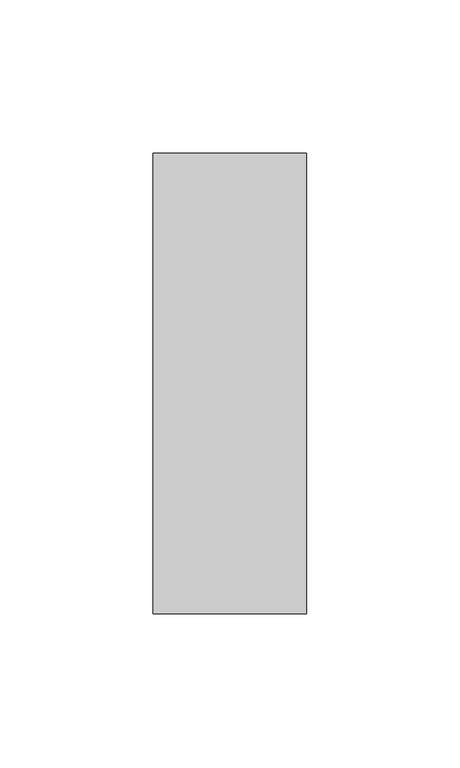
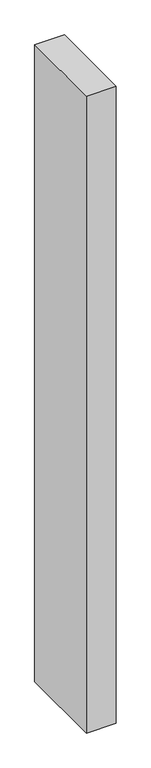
"""IFC4 building model written with IfcOpenShell, lengths in millimetres: member geometry, Прямоугольный импост : 50 x 150 мм."""

from ifc_helpers import new_model, si_unit, frame, origin, place, context, project, spatial, polyline, outline, extrude, source, transform, mapped, element, save


def member_8efa4c8a(model_context):
    return source(origin(), model_context, "Body", "SweptSolid", [
        extrude(outline(polyline([(25.0, 75.0), (25.0, -75.0), (-25.0, -75.0), (-25.0, 75.0), (25.0, 75.0)])), frame((0.0, 0.0, -1129.7240265), z_axis=(0.0, 0.0, 1.0), x_axis=(1.0, 0.0, 0.0)), (0.0, 0.0, 1.0), 1129.7240265),
    ])


if __name__ == "__main__":
    model = new_model("IFC4")
    model_context = context("Model", 3, world=origin())
    ifc_project = project(units=[si_unit("LENGTHUNIT", "METRE", prefix="MILLI")], contexts=[model_context])
    site = spatial("IfcSite", under=ifc_project)
    building = spatial("IfcBuilding", under=site)
    placement = place(None, origin())
    member_shape = member_8efa4c8a(model_context)
    element("IfcMember", 1, ObjectType="Прямоугольный импост : 50 x 150 мм", at=placement, inside=building, context=model_context, shape_type="MappedRepresentation", body=[
        mapped(member_shape, transform((0.0, 0.0, 0.0), x_axis=(1.0, 0.0, 0.0), y_axis=(0.0, 1.0, 0.0), z_axis=(0.0, 0.0, 1.0))),
    ])
    save(model, "model.ifc")
